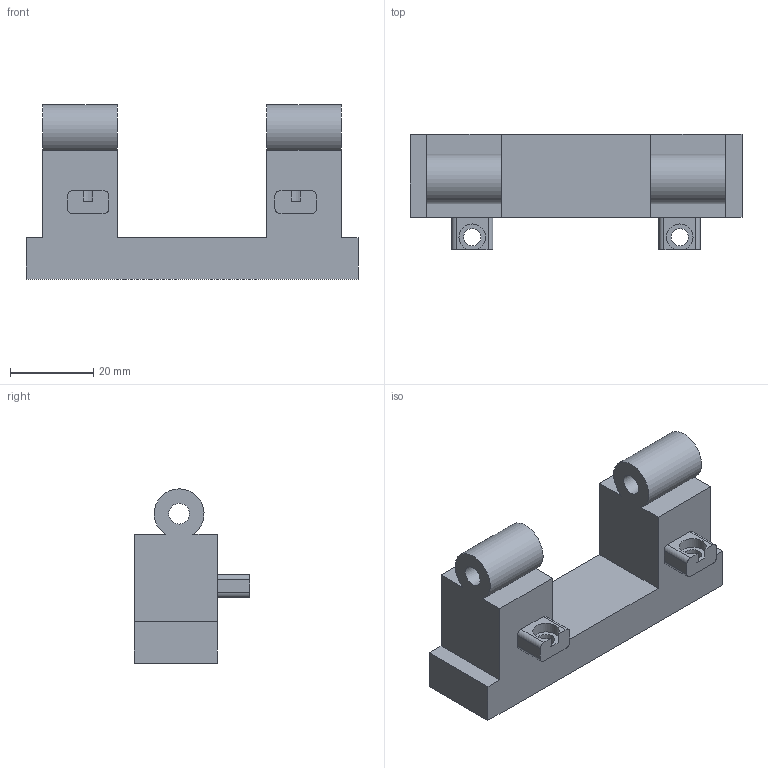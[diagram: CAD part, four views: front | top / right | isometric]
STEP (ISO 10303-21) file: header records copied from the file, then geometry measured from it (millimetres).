
FILE_DESCRIPTION(('FreeCAD Model'),'2;1');
FILE_NAME('Open CASCADE Shape Model','2026-10-14T02:29:14',('FreeCAD'),( 'FreeCAD'),'Open CASCADE STEP processor 7.8','FreeCAD','Unknown');
FILE_SCHEMA(('AUTOMOTIVE_DESIGN { 1 0 10303 214 1 1 1 1 }'));
Length unit declared in the file: millimetre
Products named in the file (1): Open CASCADE STEP translator 7.8 77
Bounding box: 80 x 27.8 x 42 mm (x, y, z)
Volume: 34918.8 mm3; surface area: 10731.9 mm2
Topology: 1 solids, 1 shells, 44 faces, 128 edges, 88 vertices
Faces by surface type: plane 28, cylinder 16
Full cylindrical faces by diameter (mm): 4.2 x2, 5 x2
Entity records: 1502 total; most frequent: CARTESIAN_POINT 261, DIRECTION 258, ORIENTED_EDGE 256, EDGE_CURVE 128, VERTEX_POINT 88, LINE 88, VECTOR 88, AXIS2_PLACEMENT_3D 85
